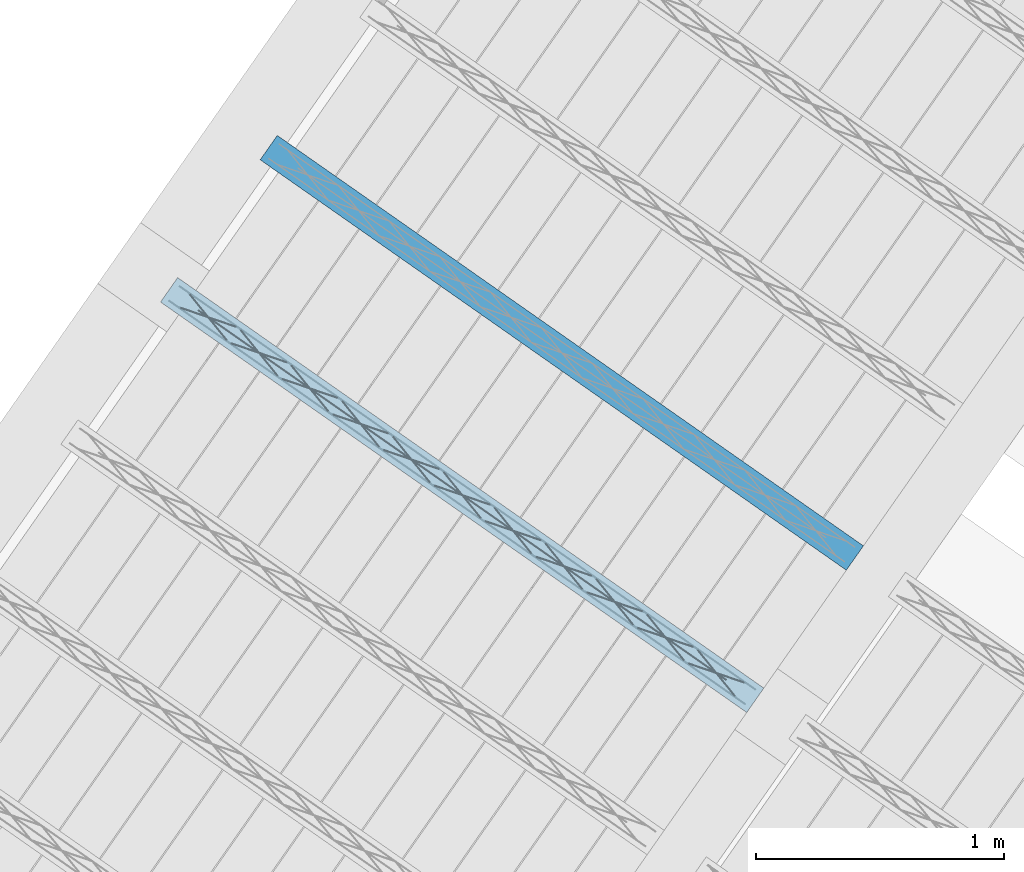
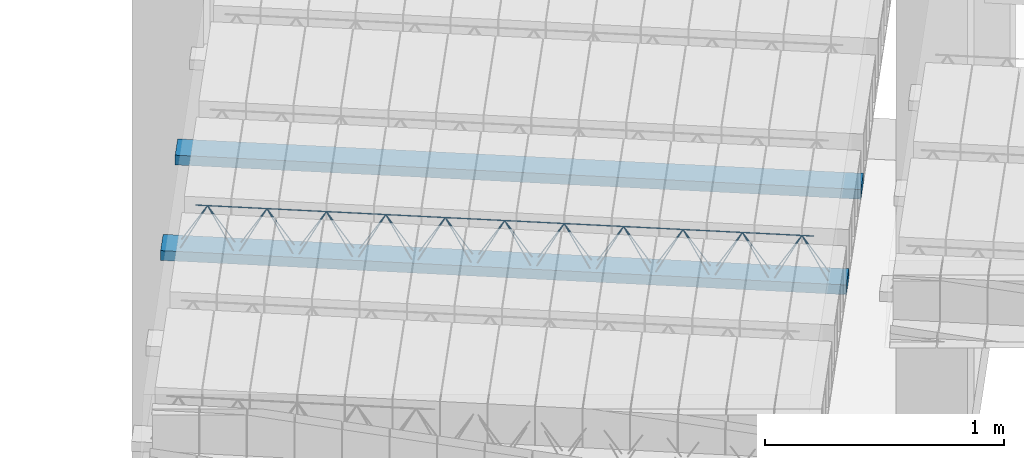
# One storey, part 29 of 80: 2 beams.
"""IFC2X3 building model written with IfcOpenShell, lengths in metres."""

from ifc_helpers import new_model, entity, si_unit, converted_unit, derived_unit, direction, frame, frame_2d, origin, origin_2d_with_axis, place, context, subcontext, project, spatial, rectangle, circle, extrude, material, type_object, element, save


model = new_model("IFC2X3")

# Units and contexts
model_context = context("Model", 3, precision=1e-05, world=origin(), true_north=direction((6.123031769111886e-17, 1.0)))
body_context = subcontext(model_context, "Body", "Model", "MODEL_VIEW")
ifc_project = project(units=[si_unit("LENGTHUNIT", "METRE"), si_unit("AREAUNIT", "SQUARE_METRE"), si_unit("VOLUMEUNIT", "CUBIC_METRE"), converted_unit("PLANEANGLEUNIT", "DEGREE", entity("IfcPlaneAngleMeasure", 0.017453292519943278), si_unit("PLANEANGLEUNIT", "RADIAN"), dimensions=[0, 0, 0, 0, 0, 0, 0]), si_unit("MASSUNIT", "GRAM", prefix="KILO"), derived_unit("MASSDENSITYUNIT", [(si_unit("MASSUNIT", "GRAM", prefix="KILO"), 1), (si_unit("LENGTHUNIT", "METRE"), -3)]), derived_unit("IONCONCENTRATIONUNIT", [(si_unit("MASSUNIT", "GRAM", prefix="KILO"), 1), (si_unit("LENGTHUNIT", "METRE"), -3)]), derived_unit("MOMENTOFINERTIAUNIT", [(si_unit("LENGTHUNIT", "METRE"), 4)]), si_unit("TIMEUNIT", "SECOND"), si_unit("FREQUENCYUNIT", "HERTZ"), si_unit("THERMODYNAMICTEMPERATUREUNIT", "DEGREE_CELSIUS"), derived_unit("THERMALTRANSMITTANCEUNIT", [(si_unit("MASSUNIT", "GRAM", prefix="KILO"), 1), (si_unit("THERMODYNAMICTEMPERATUREUNIT", "KELVIN"), -1), (si_unit("TIMEUNIT", "SECOND"), -3)]), derived_unit("THERMALCONDUCTANCEUNIT", [(si_unit("MASSUNIT", "GRAM", prefix="KILO"), 1), (si_unit("THERMODYNAMICTEMPERATUREUNIT", "KELVIN"), -1), (si_unit("TIMEUNIT", "SECOND"), -3), (si_unit("LENGTHUNIT", "METRE"), 1)]), derived_unit("VOLUMETRICFLOWRATEUNIT", [(si_unit("LENGTHUNIT", "METRE", prefix="DECI"), 3), (si_unit("TIMEUNIT", "SECOND"), -1)]), derived_unit("MASSFLOWRATEUNIT", [(si_unit("MASSUNIT", "GRAM", prefix="KILO"), 1), (si_unit("TIMEUNIT", "SECOND"), -1)]), derived_unit("ROTATIONALFREQUENCYUNIT", [(si_unit("TIMEUNIT", "SECOND"), -1)]), si_unit("ELECTRICCURRENTUNIT", "AMPERE"), si_unit("ELECTRICVOLTAGEUNIT", "VOLT"), si_unit("POWERUNIT", "WATT"), si_unit("FORCEUNIT", "NEWTON", prefix="KILO"), si_unit("ILLUMINANCEUNIT", "LUX"), si_unit("LUMINOUSFLUXUNIT", "LUMEN"), si_unit("LUMINOUSINTENSITYUNIT", "CANDELA"), si_unit("ENERGYUNIT", "JOULE"), derived_unit("USERDEFINED", [(si_unit("MASSUNIT", "GRAM", prefix="KILO"), -1), (si_unit("LENGTHUNIT", "METRE"), -2), (si_unit("TIMEUNIT", "SECOND"), 3), (si_unit("LUMINOUSFLUXUNIT", "LUMEN"), 1)]), derived_unit("USERDEFINED", [(si_unit("MASSUNIT", "GRAM", prefix="KILO"), 1), (si_unit("TIMEUNIT", "SECOND"), -3), (si_unit("LENGTHUNIT", "METRE"), 3), (si_unit("ELECTRICCURRENTUNIT", "AMPERE"), -2)]), derived_unit("SOUNDPOWERUNIT", [(si_unit("MASSUNIT", "GRAM", prefix="KILO"), 1), (si_unit("TIMEUNIT", "SECOND"), -3), (si_unit("LENGTHUNIT", "METRE"), 2)]), derived_unit("SOUNDPRESSUREUNIT", [(si_unit("MASSUNIT", "GRAM", prefix="KILO"), 1), (si_unit("LENGTHUNIT", "METRE"), -1), (si_unit("TIMEUNIT", "SECOND"), -2)]), derived_unit("LINEARVELOCITYUNIT", [(si_unit("LENGTHUNIT", "METRE"), 1), (si_unit("TIMEUNIT", "SECOND"), -1)]), si_unit("PRESSUREUNIT", "PASCAL"), derived_unit("USERDEFINED", [(si_unit("MASSUNIT", "GRAM", prefix="KILO"), 1), (si_unit("LENGTHUNIT", "METRE"), -2), (si_unit("TIMEUNIT", "SECOND"), -2)]), derived_unit("LINEARFORCEUNIT", [(si_unit("MASSUNIT", "GRAM", prefix="KILO"), 1), (si_unit("TIMEUNIT", "SECOND"), -2)]), derived_unit("PLANARFORCEUNIT", [(si_unit("MASSUNIT", "GRAM", prefix="KILO"), 1), (si_unit("LENGTHUNIT", "METRE"), -1), (si_unit("TIMEUNIT", "SECOND"), -2)]), derived_unit("SPECIFICHEATCAPACITYUNIT", [(si_unit("THERMODYNAMICTEMPERATUREUNIT", "KELVIN"), -1), (si_unit("LENGTHUNIT", "METRE"), 2), (si_unit("TIMEUNIT", "SECOND"), -2)]), derived_unit("HEATFLUXDENSITYUNIT", [(si_unit("MASSUNIT", "GRAM", prefix="KILO"), 1), (si_unit("TIMEUNIT", "SECOND"), -3)]), derived_unit("HEATINGVALUEUNIT", [(si_unit("LENGTHUNIT", "METRE"), 2), (si_unit("TIMEUNIT", "SECOND"), -2)]), derived_unit("VAPORPERMEABILITYUNIT", [(si_unit("LENGTHUNIT", "METRE"), -1), (si_unit("TIMEUNIT", "SECOND"), 1)]), derived_unit("DYNAMICVISCOSITYUNIT", [(si_unit("MASSUNIT", "GRAM", prefix="KILO"), 1), (si_unit("TIMEUNIT", "SECOND"), -1), (si_unit("LENGTHUNIT", "METRE"), -1)]), derived_unit("THERMALEXPANSIONCOEFFICIENTUNIT", [(si_unit("THERMODYNAMICTEMPERATUREUNIT", "KELVIN"), -1)]), derived_unit("MODULUSOFELASTICITYUNIT", [(si_unit("MASSUNIT", "GRAM", prefix="KILO"), 1), (si_unit("LENGTHUNIT", "METRE"), -1), (si_unit("TIMEUNIT", "SECOND"), -2)]), derived_unit("ISOTHERMALMOISTURECAPACITYUNIT", [(si_unit("MASSUNIT", "GRAM", prefix="KILO"), -1), (si_unit("LENGTHUNIT", "METRE"), 3)]), derived_unit("MOISTUREDIFFUSIVITYUNIT", [(si_unit("TIMEUNIT", "SECOND"), -1), (si_unit("LENGTHUNIT", "METRE"), 2)]), derived_unit("MASSPERLENGTHUNIT", [(si_unit("MASSUNIT", "GRAM", prefix="KILO"), 1), (si_unit("LENGTHUNIT", "METRE"), -1)]), derived_unit("THERMALRESISTANCEUNIT", [(si_unit("MASSUNIT", "GRAM", prefix="KILO"), -1), (si_unit("TIMEUNIT", "SECOND"), 3), (si_unit("THERMODYNAMICTEMPERATUREUNIT", "KELVIN"), 1)]), derived_unit("ACCELERATIONUNIT", [(si_unit("LENGTHUNIT", "METRE"), 1), (si_unit("TIMEUNIT", "SECOND"), -2)]), derived_unit("ANGULARVELOCITYUNIT", [(si_unit("TIMEUNIT", "SECOND"), -1), (si_unit("PLANEANGLEUNIT", "RADIAN"), 1)]), derived_unit("LINEARSTIFFNESSUNIT", [(si_unit("MASSUNIT", "GRAM", prefix="KILO"), 1), (si_unit("TIMEUNIT", "SECOND"), -2)]), derived_unit("WARPINGCONSTANTUNIT", [(si_unit("LENGTHUNIT", "METRE"), 6)]), derived_unit("LINEARMOMENTUNIT", [(si_unit("MASSUNIT", "GRAM", prefix="KILO"), 1), (si_unit("LENGTHUNIT", "METRE"), 1), (si_unit("TIMEUNIT", "SECOND"), -2)]), derived_unit("TORQUEUNIT", [(si_unit("MASSUNIT", "GRAM", prefix="KILO"), 1), (si_unit("LENGTHUNIT", "METRE"), 2), (si_unit("TIMEUNIT", "SECOND"), -2)])], contexts=[model_context])

# Site, building, storey
site_placement = place(None, origin())
site = spatial("IfcSite", under=ifc_project, at=site_placement, Name="Default", CompositionType="ELEMENT")
building_placement = place(site_placement, origin())
building = spatial("IfcBuilding", under=site, at=building_placement, CompositionType="ELEMENT")
storey_placement = place(building_placement, frame((0.0, 0.0, 95.94)))
storey = spatial("IfcBuildingStorey", under=building, at=storey_placement, Name="PB", CompositionType="ELEMENT", Elevation=95.94)

# Beams
beam_type = type_object("IfcBeamType", Name="Vigueta 8 (Paño 2) (Mf = 11.16)", PredefinedType="JOIST")
beam_1_placement = place(storey_placement, origin())
element("IfcBeam", 1, at=beam_1_placement, inside=storey, type_object=beam_type, Name="Vigueta 8 (Paño 2) (Mf = 11.16)", ObjectType="Mf = 11.16", context=body_context, shape_type="SweptSolid", body=[
    extrude(rectangle(XDim=2.884532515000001, YDim=0.1200000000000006, at=frame_2d((-6.661338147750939e-16, 2.0122792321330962e-16), x_axis=(1.0, 0.0))), frame((2.8118991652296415, 5.905427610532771, 2.82), z_axis=(0.0, 0.0, 1.0), x_axis=(0.8191520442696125, -0.5735764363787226, 0.0)), (0.0, 0.0, 1.0), 0.04999999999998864),
    extrude(circle(Radius=0.0025, at=origin_2d_with_axis()), frame((1.6294747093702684, 6.689422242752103, 2.8449999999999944), z_axis=(0.8191520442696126, -0.5735764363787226, 0.0), x_axis=(-0.5735764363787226, -0.8191520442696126, 0.0)), (0.0, 0.0, 1.0), 2.836532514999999),
    extrude(circle(Radius=0.0025, at=origin_2d_with_axis()), frame((1.747001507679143, 6.651076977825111, 3.069999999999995), z_axis=(0.8191520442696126, -0.5735764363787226, 0.0), x_axis=(-0.5735764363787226, -0.8191520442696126, 0.0)), (0.0, 0.0, 1.0), 2.5999999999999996),
    extrude(circle(Radius=0.0025, at=origin_2d_with_axis()), frame((3.9175844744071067, 5.087270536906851, 2.8449999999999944), z_axis=(-0.3145304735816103, 0.389334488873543, 0.8657304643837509), x_axis=(-0.7778747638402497, -0.6284193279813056, 0.0)), (0.0, 0.0, 1.0), 0.2598961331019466),
    extrude(circle(Radius=0.0025, at=origin_2d_with_axis()), frame((3.712796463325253, 5.230664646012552, 2.8449999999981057), z_axis=(0.47343050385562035, -0.1624017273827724, 0.8657304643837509), x_axis=(-0.3244721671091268, -0.9458952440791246, 0.0)), (0.0, 0.0, 1.0), 0.25989613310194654),
    extrude(circle(Radius=0.0025, at=origin_2d_with_axis()), frame((3.71279646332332, 5.230664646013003, 2.8449999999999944), z_axis=(-0.3145304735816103, 0.389334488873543, 0.8657304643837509), x_axis=(-0.7778747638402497, -0.6284193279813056, 0.0)), (0.0, 0.0, 1.0), 0.2598961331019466),
    extrude(circle(Radius=0.0025, at=origin_2d_with_axis()), frame((3.508008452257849, 5.3740587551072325, 2.8449999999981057), z_axis=(0.47343050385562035, -0.1624017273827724, 0.8657304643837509), x_axis=(-0.3244721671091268, -0.9458952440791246, 0.0)), (0.0, 0.0, 1.0), 0.25989613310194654),
    extrude(circle(Radius=0.0025, at=origin_2d_with_axis()), frame((3.508008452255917, 5.374058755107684, 2.8449999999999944), z_axis=(-0.3145304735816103, 0.389334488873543, 0.8657304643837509), x_axis=(-0.7778747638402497, -0.6284193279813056, 0.0)), (0.0, 0.0, 1.0), 0.2598961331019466),
    extrude(circle(Radius=0.0025, at=origin_2d_with_axis()), frame((3.3032204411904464, 5.517452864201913, 2.8449999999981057), z_axis=(0.47343050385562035, -0.1624017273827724, 0.8657304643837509), x_axis=(-0.3244721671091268, -0.9458952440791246, 0.0)), (0.0, 0.0, 1.0), 0.25989613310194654),
    extrude(circle(Radius=0.0025, at=origin_2d_with_axis()), frame((3.303220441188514, 5.517452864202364, 2.8449999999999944), z_axis=(-0.3145304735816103, 0.389334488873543, 0.8657304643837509), x_axis=(-0.7778747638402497, -0.6284193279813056, 0.0)), (0.0, 0.0, 1.0), 0.2598961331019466),
    extrude(circle(Radius=0.0025, at=origin_2d_with_axis()), frame((3.098432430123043, 5.660846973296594, 2.8449999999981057), z_axis=(0.47343050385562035, -0.1624017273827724, 0.8657304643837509), x_axis=(-0.3244721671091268, -0.9458952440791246, 0.0)), (0.0, 0.0, 1.0), 0.25989613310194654),
    extrude(circle(Radius=0.0025, at=origin_2d_with_axis()), frame((3.0984324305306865, 5.660846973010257, 2.8449999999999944), z_axis=(-0.3145304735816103, 0.389334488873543, 0.8657304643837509), x_axis=(-0.7778747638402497, -0.6284193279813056, 0.0)), (0.0, 0.0, 1.0), 0.2598961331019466),
    extrude(circle(Radius=0.0025, at=origin_2d_with_axis()), frame((2.8936444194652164, 5.804241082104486, 2.8449999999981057), z_axis=(0.47343050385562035, -0.1624017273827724, 0.8657304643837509), x_axis=(-0.3244721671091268, -0.9458952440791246, 0.0)), (0.0, 0.0, 1.0), 0.25989613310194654),
    extrude(circle(Radius=0.0025, at=origin_2d_with_axis()), frame((2.8936444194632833, 5.804241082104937, 2.8449999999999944), z_axis=(-0.3145304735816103, 0.389334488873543, 0.8657304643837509), x_axis=(-0.7778747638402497, -0.6284193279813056, 0.0)), (0.0, 0.0, 1.0), 0.2598961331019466),
    extrude(circle(Radius=0.0025, at=origin_2d_with_axis()), frame((2.6888564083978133, 5.947635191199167, 2.8449999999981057), z_axis=(0.47343050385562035, -0.1624017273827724, 0.8657304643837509), x_axis=(-0.3244721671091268, -0.9458952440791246, 0.0)), (0.0, 0.0, 1.0), 0.25989613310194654),
    extrude(circle(Radius=0.0025, at=origin_2d_with_axis()), frame((2.6888564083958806, 5.947635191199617, 2.8449999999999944), z_axis=(-0.3145304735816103, 0.389334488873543, 0.8657304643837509), x_axis=(-0.7778747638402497, -0.6284193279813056, 0.0)), (0.0, 0.0, 1.0), 0.2598961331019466),
    extrude(circle(Radius=0.0025, at=origin_2d_with_axis()), frame((2.48406839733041, 6.091029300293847, 2.8449999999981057), z_axis=(0.47343050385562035, -0.1624017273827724, 0.8657304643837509), x_axis=(-0.3244721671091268, -0.9458952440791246, 0.0)), (0.0, 0.0, 1.0), 0.25989613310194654),
    extrude(circle(Radius=0.0025, at=origin_2d_with_axis()), frame((2.4840683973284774, 6.091029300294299, 2.8449999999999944), z_axis=(-0.3145304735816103, 0.389334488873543, 0.8657304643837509), x_axis=(-0.7778747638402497, -0.6284193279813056, 0.0)), (0.0, 0.0, 1.0), 0.2598961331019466),
    extrude(circle(Radius=0.0025, at=origin_2d_with_axis()), frame((2.279280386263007, 6.234423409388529, 2.8449999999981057), z_axis=(0.47343050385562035, -0.1624017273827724, 0.8657304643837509), x_axis=(-0.3244721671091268, -0.9458952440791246, 0.0)), (0.0, 0.0, 1.0), 0.25989613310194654),
    extrude(circle(Radius=0.0025, at=origin_2d_with_axis()), frame((2.279280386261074, 6.234423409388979, 2.8449999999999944), z_axis=(-0.3145304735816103, 0.389334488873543, 0.8657304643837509), x_axis=(-0.7778747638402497, -0.6284193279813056, 0.0)), (0.0, 0.0, 1.0), 0.2598961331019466),
    extrude(circle(Radius=0.0025, at=origin_2d_with_axis()), frame((2.0744923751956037, 6.377817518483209, 2.8449999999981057), z_axis=(0.47343050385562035, -0.1624017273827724, 0.8657304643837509), x_axis=(-0.3244721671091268, -0.9458952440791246, 0.0)), (0.0, 0.0, 1.0), 0.25989613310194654),
    extrude(circle(Radius=0.0025, at=origin_2d_with_axis()), frame((2.074492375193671, 6.377817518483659, 2.8449999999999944), z_axis=(-0.3145304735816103, 0.389334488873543, 0.8657304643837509), x_axis=(-0.7778747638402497, -0.6284193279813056, 0.0)), (0.0, 0.0, 1.0), 0.2598961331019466),
    extrude(circle(Radius=0.0025, at=origin_2d_with_axis()), frame((1.8697043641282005, 6.521211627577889, 2.8449999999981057), z_axis=(0.47343050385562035, -0.1624017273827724, 0.8657304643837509), x_axis=(-0.3244721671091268, -0.9458952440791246, 0.0)), (0.0, 0.0, 1.0), 0.25989613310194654),
    extrude(circle(Radius=0.0025, at=origin_2d_with_axis()), frame((1.8697043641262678, 6.5212116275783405, 2.8449999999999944), z_axis=(-0.3145304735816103, 0.389334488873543, 0.8657304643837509), x_axis=(-0.7778747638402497, -0.6284193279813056, 0.0)), (0.0, 0.0, 1.0), 0.2598961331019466),
    extrude(circle(Radius=0.0025, at=origin_2d_with_axis()), frame((1.6649163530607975, 6.664605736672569, 2.8449999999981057), z_axis=(0.47343050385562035, -0.1624017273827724, 0.8657304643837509), x_axis=(-0.3244721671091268, -0.9458952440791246, 0.0)), (0.0, 0.0, 1.0), 0.25989613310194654),
    extrude(circle(Radius=0.0025, at=origin_2d_with_axis()), frame((1.6707722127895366, 6.748401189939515, 2.8449999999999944), z_axis=(0.8191520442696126, -0.5735764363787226, 0.0), x_axis=(-0.5735764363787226, -0.8191520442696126, 0.0)), (0.0, 0.0, 1.0), 2.836532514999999),
    extrude(circle(Radius=0.0025, at=origin_2d_with_axis()), frame((3.958881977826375, 5.146249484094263, 2.8449999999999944), z_axis=(-0.47343050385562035, 0.1624017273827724, 0.8657304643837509), x_axis=(-0.3244721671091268, -0.9458952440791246, 0.0)), (0.0, 0.0, 1.0), 0.25989613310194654),
    extrude(circle(Radius=0.0025, at=origin_2d_with_axis()), frame((3.7540939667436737, 5.289643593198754, 2.8449999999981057), z_axis=(0.3145304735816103, -0.389334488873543, 0.8657304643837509), x_axis=(-0.7778747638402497, -0.6284193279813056, 0.0)), (0.0, 0.0, 1.0), 0.2598961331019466),
    extrude(circle(Radius=0.0025, at=origin_2d_with_axis()), frame((3.7540939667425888, 5.289643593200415, 2.8449999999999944), z_axis=(-0.47343050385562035, 0.1624017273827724, 0.8657304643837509), x_axis=(-0.3244721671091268, -0.9458952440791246, 0.0)), (0.0, 0.0, 1.0), 0.25989613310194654),
    extrude(circle(Radius=0.0025, at=origin_2d_with_axis()), frame((3.54930595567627, 5.433037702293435, 2.8449999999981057), z_axis=(0.3145304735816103, -0.389334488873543, 0.8657304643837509), x_axis=(-0.7778747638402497, -0.6284193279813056, 0.0)), (0.0, 0.0, 1.0), 0.2598961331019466),
    extrude(circle(Radius=0.0025, at=origin_2d_with_axis()), frame((3.549305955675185, 5.4330377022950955, 2.8449999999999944), z_axis=(-0.47343050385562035, 0.1624017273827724, 0.8657304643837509), x_axis=(-0.3244721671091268, -0.9458952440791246, 0.0)), (0.0, 0.0, 1.0), 0.25989613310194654),
    extrude(circle(Radius=0.0025, at=origin_2d_with_axis()), frame((3.3445179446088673, 5.576431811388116, 2.8449999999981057), z_axis=(0.3145304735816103, -0.389334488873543, 0.8657304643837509), x_axis=(-0.7778747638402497, -0.6284193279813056, 0.0)), (0.0, 0.0, 1.0), 0.2598961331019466),
    extrude(circle(Radius=0.0025, at=origin_2d_with_axis()), frame((3.3445179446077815, 5.576431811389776, 2.8449999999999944), z_axis=(-0.47343050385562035, 0.1624017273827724, 0.8657304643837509), x_axis=(-0.3244721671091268, -0.9458952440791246, 0.0)), (0.0, 0.0, 1.0), 0.25989613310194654),
    extrude(circle(Radius=0.0025, at=origin_2d_with_axis()), frame((3.1397299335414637, 5.719825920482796, 2.8449999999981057), z_axis=(0.3145304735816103, -0.389334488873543, 0.8657304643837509), x_axis=(-0.7778747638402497, -0.6284193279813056, 0.0)), (0.0, 0.0, 1.0), 0.2598961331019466),
    extrude(circle(Radius=0.0025, at=origin_2d_with_axis()), frame((3.139729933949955, 5.7198259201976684, 2.8449999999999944), z_axis=(-0.47343050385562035, 0.1624017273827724, 0.8657304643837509), x_axis=(-0.3244721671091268, -0.9458952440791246, 0.0)), (0.0, 0.0, 1.0), 0.25989613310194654),
    extrude(circle(Radius=0.0025, at=origin_2d_with_axis()), frame((2.9349419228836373, 5.863220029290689, 2.8449999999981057), z_axis=(0.3145304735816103, -0.389334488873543, 0.8657304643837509), x_axis=(-0.7778747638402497, -0.6284193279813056, 0.0)), (0.0, 0.0, 1.0), 0.2598961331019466),
    extrude(circle(Radius=0.0025, at=origin_2d_with_axis()), frame((2.9349419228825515, 5.863220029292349, 2.8449999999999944), z_axis=(-0.47343050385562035, 0.1624017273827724, 0.8657304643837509), x_axis=(-0.3244721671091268, -0.9458952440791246, 0.0)), (0.0, 0.0, 1.0), 0.25989613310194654),
    extrude(circle(Radius=0.0025, at=origin_2d_with_axis()), frame((2.730153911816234, 6.006614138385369, 2.8449999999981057), z_axis=(0.3145304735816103, -0.389334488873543, 0.8657304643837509), x_axis=(-0.7778747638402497, -0.6284193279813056, 0.0)), (0.0, 0.0, 1.0), 0.2598961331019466),
    extrude(circle(Radius=0.0025, at=origin_2d_with_axis()), frame((2.7301539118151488, 6.006614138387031, 2.8449999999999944), z_axis=(-0.47343050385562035, 0.1624017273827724, 0.8657304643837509), x_axis=(-0.3244721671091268, -0.9458952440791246, 0.0)), (0.0, 0.0, 1.0), 0.25989613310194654),
    extrude(circle(Radius=0.0025, at=origin_2d_with_axis()), frame((2.525365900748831, 6.1500082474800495, 2.8449999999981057), z_axis=(0.3145304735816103, -0.389334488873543, 0.8657304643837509), x_axis=(-0.7778747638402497, -0.6284193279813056, 0.0)), (0.0, 0.0, 1.0), 0.2598961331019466),
    extrude(circle(Radius=0.0025, at=origin_2d_with_axis()), frame((2.525365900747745, 6.15000824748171, 2.8449999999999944), z_axis=(-0.47343050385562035, 0.1624017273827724, 0.8657304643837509), x_axis=(-0.3244721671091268, -0.9458952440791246, 0.0)), (0.0, 0.0, 1.0), 0.25989613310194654),
    extrude(circle(Radius=0.0025, at=origin_2d_with_axis()), frame((2.3205778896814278, 6.293402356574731, 2.8449999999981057), z_axis=(0.3145304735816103, -0.389334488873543, 0.8657304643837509), x_axis=(-0.7778747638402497, -0.6284193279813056, 0.0)), (0.0, 0.0, 1.0), 0.2598961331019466),
    extrude(circle(Radius=0.0025, at=origin_2d_with_axis()), frame((2.3205778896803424, 6.293402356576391, 2.8449999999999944), z_axis=(-0.47343050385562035, 0.1624017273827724, 0.8657304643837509), x_axis=(-0.3244721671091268, -0.9458952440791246, 0.0)), (0.0, 0.0, 1.0), 0.25989613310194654),
    extrude(circle(Radius=0.0025, at=origin_2d_with_axis()), frame((2.1157898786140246, 6.436796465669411, 2.8449999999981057), z_axis=(0.3145304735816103, -0.389334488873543, 0.8657304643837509), x_axis=(-0.7778747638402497, -0.6284193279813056, 0.0)), (0.0, 0.0, 1.0), 0.2598961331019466),
    extrude(circle(Radius=0.0025, at=origin_2d_with_axis()), frame((2.115789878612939, 6.4367964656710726, 2.8449999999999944), z_axis=(-0.47343050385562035, 0.1624017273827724, 0.8657304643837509), x_axis=(-0.3244721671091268, -0.9458952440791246, 0.0)), (0.0, 0.0, 1.0), 0.25989613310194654),
    extrude(circle(Radius=0.0025, at=origin_2d_with_axis()), frame((1.9110018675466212, 6.580190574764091, 2.8449999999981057), z_axis=(0.3145304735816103, -0.389334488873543, 0.8657304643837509), x_axis=(-0.7778747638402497, -0.6284193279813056, 0.0)), (0.0, 0.0, 1.0), 0.2598961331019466),
    extrude(circle(Radius=0.0025, at=origin_2d_with_axis()), frame((1.911001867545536, 6.580190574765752, 2.8449999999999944), z_axis=(-0.47343050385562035, 0.1624017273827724, 0.8657304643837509), x_axis=(-0.3244721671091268, -0.9458952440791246, 0.0)), (0.0, 0.0, 1.0), 0.25989613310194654),
    extrude(circle(Radius=0.0025, at=origin_2d_with_axis()), frame((1.7062138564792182, 6.723584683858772, 2.8449999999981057), z_axis=(0.3145304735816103, -0.389334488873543, 0.8657304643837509), x_axis=(-0.7778747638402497, -0.6284193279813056, 0.0)), (0.0, 0.0, 1.0), 0.2598961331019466),
])
ifc_material = material(Name="Hormigón armado")
beam_2_placement = place(storey_placement, origin())
element("IfcBeam", 2, at=beam_2_placement, inside=storey, material=ifc_material, Name="237981", context=body_context, shape_type="SweptSolid", body=[
    extrude(rectangle(XDim=0.04999999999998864, YDim=0.12000000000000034, at=frame_2d((1.7324683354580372e-14, -5.967448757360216e-16), x_axis=(1.0, 0.0))), frame((2.031996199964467, 7.30606375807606, 2.8450000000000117), z_axis=(0.819152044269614, -0.5735764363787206, 0.0), x_axis=(0.0, 0.0, -1.0)), (0.0, 0.0, 1.0), 2.8844972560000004),
])

save(model, "model.ifc")
